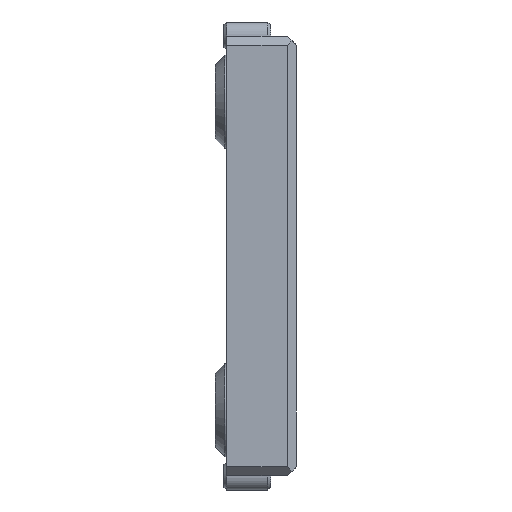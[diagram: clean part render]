
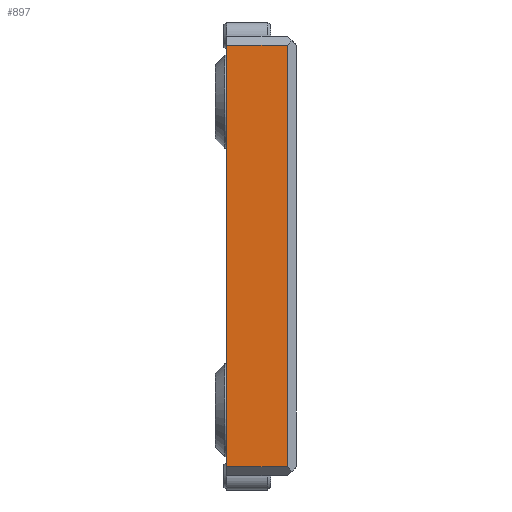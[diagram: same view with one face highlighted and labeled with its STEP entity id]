
A CAD part, left-side view. The second image highlights one B-rep face of the part: STEP entity #897.
In plain terms, the highlighted planar face has unit normal (-1, 0, 0).
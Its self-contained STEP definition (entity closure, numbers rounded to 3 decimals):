
#575=FACE_OUTER_BOUND('',#1942,.T.);
#897=ADVANCED_FACE('',(#575),#1256,.T.);
#1256=PLANE('',#7103);
#1942=EDGE_LOOP('',(#2608,#2609,#2610,#2611));
#2608=ORIENTED_EDGE('',*,*,#5025,.T.);
#2609=ORIENTED_EDGE('',*,*,#5026,.T.);
#2610=ORIENTED_EDGE('',*,*,#5027,.T.);
#2611=ORIENTED_EDGE('',*,*,#5028,.T.);
#4404=VERTEX_POINT('',#9619);
#4405=VERTEX_POINT('',#9620);
#4406=VERTEX_POINT('',#9622);
#4407=VERTEX_POINT('',#9624);
#5025=EDGE_CURVE('',#4404,#4405,#5854,.T.);
#5026=EDGE_CURVE('',#4405,#4406,#5855,.T.);
#5027=EDGE_CURVE('',#4406,#4407,#5856,.T.);
#5028=EDGE_CURVE('',#4407,#4404,#5857,.T.);
#5854=LINE('',#9618,#6519);
#5855=LINE('',#9621,#6520);
#5856=LINE('',#9623,#6521);
#5857=LINE('',#9625,#6522);
#6519=VECTOR('',#7696,1.);
#6520=VECTOR('',#7697,1.);
#6521=VECTOR('',#7698,1.);
#6522=VECTOR('',#7699,1.);
#7103=AXIS2_PLACEMENT_3D('',#9626,#7700,#7701);
#7696=DIRECTION('',(0.,0.,-1.));
#7697=DIRECTION('',(0.,-1.,0.));
#7698=DIRECTION('',(0.,0.,1.));
#7699=DIRECTION('',(0.,1.,0.));
#7700=DIRECTION('',(-1.,0.,0.));
#7701=DIRECTION('',(0.,-1.,0.));
#9618=CARTESIAN_POINT('',(105.,-132.75,-121.25));
#9619=CARTESIAN_POINT('',(105.,-132.75,-98.75));
#9620=CARTESIAN_POINT('',(105.,-132.75,-143.75));
#9621=CARTESIAN_POINT('',(105.,-132.75,-143.75));
#9622=CARTESIAN_POINT('',(105.,-139.25,-143.75));
#9623=CARTESIAN_POINT('',(105.,-139.25,-121.25));
#9624=CARTESIAN_POINT('',(105.,-139.25,-98.75));
#9625=CARTESIAN_POINT('',(105.,-132.75,-98.75));
#9626=CARTESIAN_POINT('',(105.,-132.75,-121.25));
